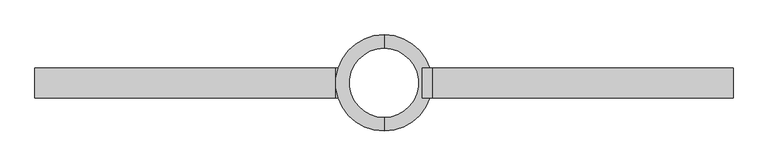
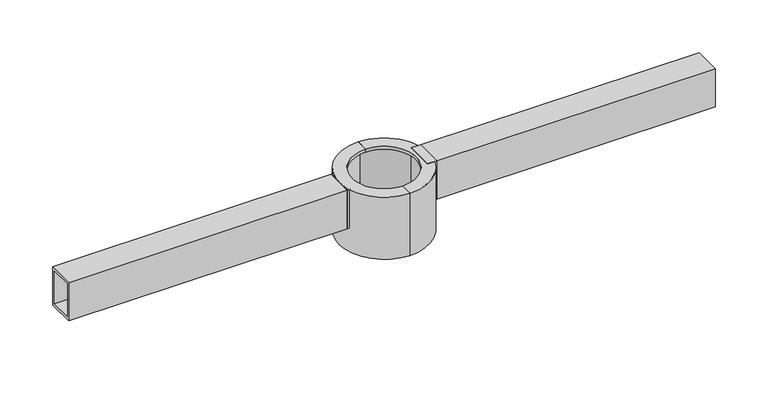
"""IFC4 building model written with IfcOpenShell, lengths in millimetres: light fixture geometry, CANDELA_CLF : 2XCLF03."""

from ifc_helpers import new_model, si_unit, frame, origin, origin_with_axes, place, context, project, spatial, polyline, circle_curve, outline, extrude, source, transform, mapped, element, save
from ifc_brep_helpers import plane_surface, cylinder_surface, revolved_surface, advanced_brep


def light_fixture_0dd875ff(model_context):
    return source(origin(), model_context, "Body", "SolidModel", [
        advanced_brep(
        [(0.0, -88.3, -50.0), (0.0, -63.5, -50.0), (0.0, -63.5, -44.0), (0.0, -82.3, -44.0), (0.0, -82.3, 74.0), (0.0, -63.5, 74.0), (0.0, -63.5, 80.0), (0.0, -88.3, 80.0), (0.0, 88.3, -50.0), (0.0, 88.3, 80.0), (0.0, 63.5, 80.0), (0.0, 63.5, 74.0), (0.0, 82.3, 74.0), (0.0, 82.3, -44.0), (0.0, 63.5, -44.0), (0.0, 63.5, -50.0)],
        [
            (0, 1),
            (1, 2),
            (2, 3),
            (3, 4),
            (4, 5),
            (5, 6),
            (6, 7),
            (7, 0),
            (8, 9),
            (9, 10),
            (10, 11),
            (11, 12),
            (12, 13),
            (13, 14),
            (14, 15),
            (15, 8),
            (15, 1, circle_curve(frame((0.0, 0.0, -50.0), z_axis=(0.0, 0.0, 1.0), x_axis=(0.0, -1.0, 0.0)), 63.5)),
            (0, 8, circle_curve(frame((0.0, 0.0, -50.0), z_axis=(0.0, 0.0, -1.0), x_axis=(0.0, -1.0, 0.0)), 88.3)),
            (14, 2, circle_curve(frame((0.0, 0.0, -44.0), z_axis=(0.0, 0.0, 1.0), x_axis=(0.0, -1.0, 0.0)), 63.5)),
            (13, 3, circle_curve(frame((0.0, 0.0, -44.0), z_axis=(0.0, 0.0, 1.0), x_axis=(0.0, -1.0, 0.0)), 82.3)),
            (12, 4, circle_curve(frame((0.0, 0.0, 74.0), z_axis=(0.0, 0.0, 1.0), x_axis=(0.0, -1.0, 0.0)), 82.3)),
            (11, 5, circle_curve(frame((0.0, 0.0, 74.0), z_axis=(0.0, 0.0, 1.0), x_axis=(0.0, -1.0, 0.0)), 63.5)),
            (10, 6, circle_curve(frame((0.0, 0.0, 80.0), z_axis=(0.0, 0.0, 1.0), x_axis=(0.0, -1.0, 0.0)), 63.5)),
            (9, 7, circle_curve(frame((0.0, 0.0, 80.0), z_axis=(0.0, 0.0, 1.0), x_axis=(0.0, -1.0, 0.0)), 88.3)),
        ],
        [
            plane_surface(frame((0.0, 0.0, -520.9920377), z_axis=(1.0, 0.0, 0.0), x_axis=(0.0, -1.0, 0.0))),
            plane_surface(frame((0.0, 0.0, -520.9920377), z_axis=(1.0, 0.0, 0.0), x_axis=(0.0, 1.0, 0.0))),
            plane_surface(frame((0.0, 0.0, -50.0), z_axis=(0.0, 0.0, -1.0), x_axis=(0.0, -1.0, 0.0))),
            revolved_surface(polyline([(0.0, -63.5, -50.0), (0.0, -63.5, -44.0)]), (0.0, 0.0, -520.9920377), (0.0, 0.0, -1.0)),
            plane_surface(frame((0.0, 0.0, -44.0), z_axis=(0.0, 0.0, 1.0), x_axis=(0.0, -1.0, 0.0))),
            revolved_surface(polyline([(0.0, -82.3, -44.0), (0.0, -82.3, 74.0)]), (0.0, 0.0, -520.9920377), (0.0, 0.0, -1.0)),
            plane_surface(frame((0.0, 0.0, 74.0), z_axis=(0.0, 0.0, -1.0), x_axis=(0.0, -1.0, 0.0))),
            revolved_surface(polyline([(0.0, -63.5, 74.0), (0.0, -63.5, 80.0)]), (0.0, 0.0, -520.9920377), (0.0, 0.0, -1.0)),
            plane_surface(frame((0.0, 0.0, 80.0), z_axis=(0.0, 0.0, 1.0), x_axis=(0.0, -1.0, 0.0))),
            cylinder_surface(frame((0.0, 0.0, -520.9920377), z_axis=(0.0, 0.0, -1.0), x_axis=(0.0, -1.0, 0.0)), 88.3),
        ],
        [
            (0, [[1, 2, 3, 4, 5, 6, 7, 8]]),
            (1, [[9, 10, 11, 12, 13, 14, 15, 16]]),
            (2, [[17, -1, 18, -16]]),
            (3, [[19, -2, -17, -15]]),
            (4, [[20, -3, -19, -14]]),
            (5, [[21, -4, -20, -13]]),
            (6, [[22, -5, -21, -12]]),
            (7, [[23, -6, -22, -11]]),
            (8, [[24, -7, -23, -10]]),
            (9, [[-18, -8, -24, -9]]),
        ],
    ),
        extrude(outline(polyline([(-88.3, -27.5), (-88.3, 27.5), (-69.9764576, 27.5), (-69.9764576, -27.5), (-88.3, -27.5)])), origin_with_axes(), (0.0, 0.0, 1.0), 80.0),
        extrude(outline(polyline([(27.5, 0.0), (-27.5, 0.0), (-27.5, 80.0), (27.5, 80.0), (27.5, 0.0)]), holes=[polyline([(-21.5, 6.0), (21.5, 6.0), (21.5, 74.0), (-21.5, 74.0), (-21.5, 6.0)])]), frame((-638.3, 0.0, 0.0), z_axis=(1.0, 0.0, 0.0), x_axis=(0.0, 1.0, 0.0)), (0.0, 0.0, 1.0), 550.0),
        advanced_brep(
        [(0.0, -88.3, -50.0), (0.0, -63.5, -50.0), (0.0, -63.5, -44.0), (0.0, -82.3, -44.0), (0.0, -82.3, 74.0), (0.0, -63.5, 74.0), (0.0, -63.5, 80.0), (0.0, -88.3, 80.0), (0.0, 88.3, -50.0), (0.0, 88.3, 80.0), (0.0, 63.5, 80.0), (0.0, 63.5, 74.0), (0.0, 82.3, 74.0), (0.0, 82.3, -44.0), (0.0, 63.5, -44.0), (0.0, 63.5, -50.0)],
        [
            (0, 1),
            (1, 2),
            (2, 3),
            (3, 4),
            (4, 5),
            (5, 6),
            (6, 7),
            (7, 0),
            (8, 9),
            (9, 10),
            (10, 11),
            (11, 12),
            (12, 13),
            (13, 14),
            (14, 15),
            (15, 8),
            (15, 1, circle_curve(frame((0.0, 0.0, -50.0), z_axis=(0.0, 0.0, 1.0), x_axis=(0.0, -1.0, 0.0)), 63.5)),
            (0, 8, circle_curve(frame((0.0, 0.0, -50.0), z_axis=(0.0, 0.0, -1.0), x_axis=(0.0, -1.0, 0.0)), 88.3)),
            (14, 2, circle_curve(frame((0.0, 0.0, -44.0), z_axis=(0.0, 0.0, 1.0), x_axis=(0.0, -1.0, 0.0)), 63.5)),
            (13, 3, circle_curve(frame((0.0, 0.0, -44.0), z_axis=(0.0, 0.0, 1.0), x_axis=(0.0, -1.0, 0.0)), 82.3)),
            (12, 4, circle_curve(frame((0.0, 0.0, 74.0), z_axis=(0.0, 0.0, 1.0), x_axis=(0.0, -1.0, 0.0)), 82.3)),
            (11, 5, circle_curve(frame((0.0, 0.0, 74.0), z_axis=(0.0, 0.0, 1.0), x_axis=(0.0, -1.0, 0.0)), 63.5)),
            (10, 6, circle_curve(frame((0.0, 0.0, 80.0), z_axis=(0.0, 0.0, 1.0), x_axis=(0.0, -1.0, 0.0)), 63.5)),
            (9, 7, circle_curve(frame((0.0, 0.0, 80.0), z_axis=(0.0, 0.0, 1.0), x_axis=(0.0, -1.0, 0.0)), 88.3)),
        ],
        [
            plane_surface(frame((0.0, 0.0, -520.9920377), z_axis=(1.0, 0.0, 0.0), x_axis=(0.0, -1.0, 0.0))),
            plane_surface(frame((0.0, 0.0, -520.9920377), z_axis=(1.0, 0.0, 0.0), x_axis=(0.0, 1.0, 0.0))),
            plane_surface(frame((0.0, 0.0, -50.0), z_axis=(0.0, 0.0, -1.0), x_axis=(0.0, -1.0, 0.0))),
            revolved_surface(polyline([(0.0, -63.5, -50.0), (0.0, -63.5, -44.0)]), (0.0, 0.0, -520.9920377), (0.0, 0.0, -1.0)),
            plane_surface(frame((0.0, 0.0, -44.0), z_axis=(0.0, 0.0, 1.0), x_axis=(0.0, -1.0, 0.0))),
            revolved_surface(polyline([(0.0, -82.3, -44.0), (0.0, -82.3, 74.0)]), (0.0, 0.0, -520.9920377), (0.0, 0.0, -1.0)),
            plane_surface(frame((0.0, 0.0, 74.0), z_axis=(0.0, 0.0, -1.0), x_axis=(0.0, -1.0, 0.0))),
            revolved_surface(polyline([(0.0, -63.5, 74.0), (0.0, -63.5, 80.0)]), (0.0, 0.0, -520.9920377), (0.0, 0.0, -1.0)),
            plane_surface(frame((0.0, 0.0, 80.0), z_axis=(0.0, 0.0, 1.0), x_axis=(0.0, -1.0, 0.0))),
            cylinder_surface(frame((0.0, 0.0, -520.9920377), z_axis=(0.0, 0.0, -1.0), x_axis=(0.0, -1.0, 0.0)), 88.3),
        ],
        [
            (0, [[1, 2, 3, 4, 5, 6, 7, 8]]),
            (1, [[9, 10, 11, 12, 13, 14, 15, 16]]),
            (2, [[17, -1, 18, -16]]),
            (3, [[19, -2, -17, -15]]),
            (4, [[20, -3, -19, -14]]),
            (5, [[21, -4, -20, -13]]),
            (6, [[22, -5, -21, -12]]),
            (7, [[23, -6, -22, -11]]),
            (8, [[24, -7, -23, -10]]),
            (9, [[-18, -8, -24, -9]]),
        ],
    ),
        extrude(outline(polyline([(88.3, 27.5), (88.3, -27.5), (69.9764576, -27.5), (69.9764576, 27.5), (88.3, 27.5)])), origin_with_axes(), (0.0, 0.0, 1.0), 80.0),
        advanced_brep(
        [(0.0, -88.3, -50.0), (0.0, -88.3, 80.0), (0.0, -63.5, 80.0), (0.0, -63.5, 74.0), (0.0, -82.3, 74.0), (0.0, -82.3, -44.0), (0.0, -63.5, -44.0), (0.0, -63.5, -50.0), (0.0, 88.3, -50.0), (0.0, 63.5, -50.0), (0.0, 63.5, -44.0), (0.0, 82.3, -44.0), (0.0, 82.3, 74.0), (0.0, 63.5, 74.0), (0.0, 63.5, 80.0), (0.0, 88.3, 80.0)],
        [
            (0, 1),
            (1, 2),
            (2, 3),
            (3, 4),
            (4, 5),
            (5, 6),
            (6, 7),
            (7, 0),
            (8, 9),
            (9, 10),
            (10, 11),
            (11, 12),
            (12, 13),
            (13, 14),
            (14, 15),
            (15, 8),
            (8, 0, circle_curve(frame((0.0, 0.0, -50.0), z_axis=(0.0, 0.0, -1.0), x_axis=(0.0, -1.0, 0.0)), 88.3)),
            (7, 9, circle_curve(frame((0.0, 0.0, -50.0), z_axis=(0.0, 0.0, 1.0), x_axis=(0.0, -1.0, 0.0)), 63.5)),
            (6, 10, circle_curve(frame((0.0, 0.0, -44.0), z_axis=(0.0, 0.0, 1.0), x_axis=(0.0, -1.0, 0.0)), 63.5)),
            (5, 11, circle_curve(frame((0.0, 0.0, -44.0), z_axis=(0.0, 0.0, 1.0), x_axis=(0.0, -1.0, 0.0)), 82.3)),
            (4, 12, circle_curve(frame((0.0, 0.0, 74.0), z_axis=(0.0, 0.0, 1.0), x_axis=(0.0, -1.0, 0.0)), 82.3)),
            (3, 13, circle_curve(frame((0.0, 0.0, 74.0), z_axis=(0.0, 0.0, 1.0), x_axis=(0.0, -1.0, 0.0)), 63.5)),
            (2, 14, circle_curve(frame((0.0, 0.0, 80.0), z_axis=(0.0, 0.0, 1.0), x_axis=(0.0, -1.0, 0.0)), 63.5)),
            (1, 15, circle_curve(frame((0.0, 0.0, 80.0), z_axis=(0.0, 0.0, 1.0), x_axis=(0.0, -1.0, 0.0)), 88.3)),
        ],
        [
            plane_surface(frame((0.0, 0.0, -520.9920377), z_axis=(-1.0, 0.0, 0.0), x_axis=(0.0, -1.0, 0.0))),
            plane_surface(frame((0.0, 0.0, -520.9920377), z_axis=(-1.0, 0.0, 0.0), x_axis=(0.0, 1.0, 0.0))),
            plane_surface(frame((0.0, 0.0, -50.0), z_axis=(0.0, 0.0, -1.0), x_axis=(0.0, -1.0, 0.0))),
            revolved_surface(polyline([(0.0, -63.5, -44.0), (0.0, -63.5, -50.0)]), (0.0, 0.0, -520.9920377), (0.0, 0.0, 1.0)),
            plane_surface(frame((0.0, 0.0, -44.0), z_axis=(0.0, 0.0, 1.0), x_axis=(0.0, -1.0, 0.0))),
            revolved_surface(polyline([(0.0, -82.3, 74.0), (0.0, -82.3, -44.0)]), (0.0, 0.0, -520.9920377), (0.0, 0.0, 1.0)),
            plane_surface(frame((0.0, 0.0, 74.0), z_axis=(0.0, 0.0, -1.0), x_axis=(0.0, -1.0, 0.0))),
            revolved_surface(polyline([(0.0, -63.5, 80.0), (0.0, -63.5, 74.0)]), (0.0, 0.0, -520.9920377), (0.0, 0.0, 1.0)),
            plane_surface(frame((0.0, 0.0, 80.0), z_axis=(0.0, 0.0, 1.0), x_axis=(0.0, -1.0, 0.0))),
            cylinder_surface(frame((0.0, 0.0, -520.9920377), z_axis=(0.0, 0.0, 1.0), x_axis=(0.0, -1.0, 0.0)), 88.3),
        ],
        [
            (0, [[1, 2, 3, 4, 5, 6, 7, 8]]),
            (1, [[9, 10, 11, 12, 13, 14, 15, 16]]),
            (2, [[17, -8, 18, -9]]),
            (3, [[-18, -7, 19, -10]]),
            (4, [[-19, -6, 20, -11]]),
            (5, [[-20, -5, 21, -12]]),
            (6, [[-21, -4, 22, -13]]),
            (7, [[-22, -3, 23, -14]]),
            (8, [[-23, -2, 24, -15]]),
            (9, [[-24, -1, -17, -16]]),
        ],
    ),
        extrude(outline(polyline([(27.5, 0.0), (-27.5, 0.0), (-27.5, 80.0), (27.5, 80.0), (27.5, 0.0)]), holes=[polyline([(-21.5, 6.0), (21.5, 6.0), (21.5, 74.0), (-21.5, 74.0), (-21.5, 6.0)])]), frame((88.3, 0.0, 0.0), z_axis=(1.0, 0.0, 0.0), x_axis=(0.0, 1.0, 0.0)), (0.0, 0.0, 1.0), 550.0),
    ])


if __name__ == "__main__":
    model = new_model("IFC4")
    model_context = context("Model", 3, world=origin())
    ifc_project = project(units=[si_unit("LENGTHUNIT", "METRE", prefix="MILLI")], contexts=[model_context])
    site = spatial("IfcSite", under=ifc_project)
    building = spatial("IfcBuilding", under=site)
    placement = place(None, origin())
    light_fixture_shape = light_fixture_0dd875ff(model_context)
    element("IfcLightFixture", 1, ObjectType="CANDELA_CLF : 2XCLF03", at=placement, inside=building, context=model_context, shape_type="MappedRepresentation", body=[
        mapped(light_fixture_shape, transform((0.0, 0.0, 0.0), x_axis=(1.0, 0.0, 0.0), y_axis=(0.0, 1.0, 0.0), z_axis=(0.0, 0.0, 1.0))),
    ])
    save(model, "model.ifc")
